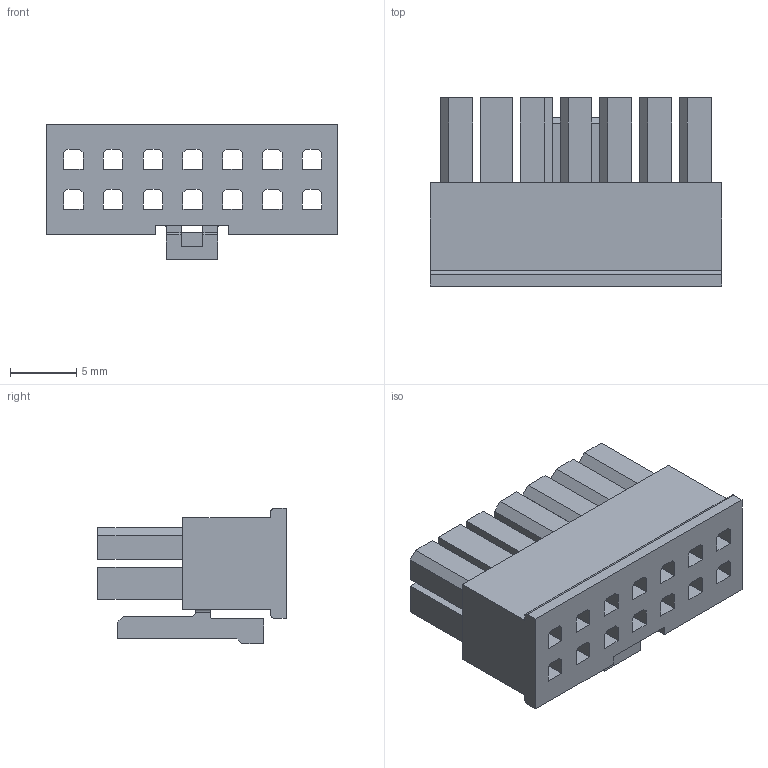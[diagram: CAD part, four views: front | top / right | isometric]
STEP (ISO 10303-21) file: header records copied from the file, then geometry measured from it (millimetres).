
FILE_DESCRIPTION (( 'STEP AP214' ), '1' );
FILE_NAME ('4976-2X07MHB.STEP', '2018-08-02T02:51:33', ( 'ADMIN' ), ( '' ), 'SwSTEP 2.0', 'SolidWorks 2011', '' );
FILE_SCHEMA (( 'AUTOMOTIVE_DESIGN' ));
Length unit declared in the file: millimetre
Products named in the file (2): housing07; 4976-2X07MHB
Assembly tree (1 placements, depth 2):
  4976-2X07MHB
    housing07
Bounding box: 22 x 14.2 x 10.2 mm (x, y, z)
Volume: 1347.5 mm3; surface area: 2861.6 mm2
Topology: 2 solids, 2 shells, 211 faces, 579 edges, 386 vertices
Faces by surface type: plane 202, cylinder 9
Entity records: 6702 total; most frequent: CARTESIAN_POINT 1180, ORIENTED_EDGE 1158, DIRECTION 1027, EDGE_CURVE 579, VECTOR 561, LINE 561, VERTEX_POINT 386, EDGE_LOOP 253
